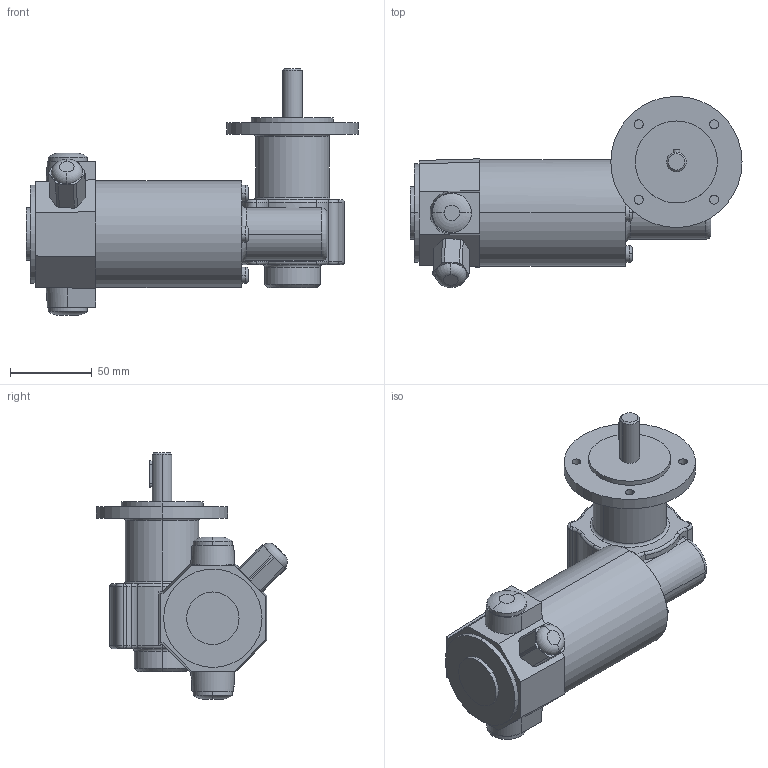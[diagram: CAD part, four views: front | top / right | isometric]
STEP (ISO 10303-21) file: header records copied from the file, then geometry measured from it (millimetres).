
FILE_DESCRIPTION(('OneSpaceDesigner STEP Export'),'2;1');
FILE_NAME('EPG02_GF127-10.stp','2008-07-02T14:43:34',(''),(''),'OneSpace Designer STEP processor (Jan. 2003) for AP214(CD)(Solid Model)','OneSpace Designer 12.01D 09-Jul-2004 (C) CoCreate Software GmbH','');
FILE_SCHEMA(('AUTOMOTIVE_DESIGN_CC2 {1 2 10303 214 -1 1 5 1}'));
Length unit declared in the file: millimetre
Products named in the file (2): EPG02_GF127-10
Assembly tree (1 placements, depth 2):
  EPG02_GF127-10
    EPG02_GF127-10
Bounding box: 202.5 x 116.58 x 150.5 mm (x, y, z)
Volume: 744801 mm3; surface area: 70566.3 mm2
Topology: 1 solids, 1 shells, 214 faces, 517 edges, 321 vertices
Faces by surface type: cylinder 85, torus 72, plane 51, cone 4, bspline 2
Entity records: 8079 total; most frequent: CARTESIAN_POINT 3539, ORIENTED_EDGE 1034, DIRECTION 859, EDGE_CURVE 517, AXIS2_PLACEMENT_3D 352, VERTEX_POINT 321, EDGE_LOOP 238, FACE_OUTER_BOUND 214
